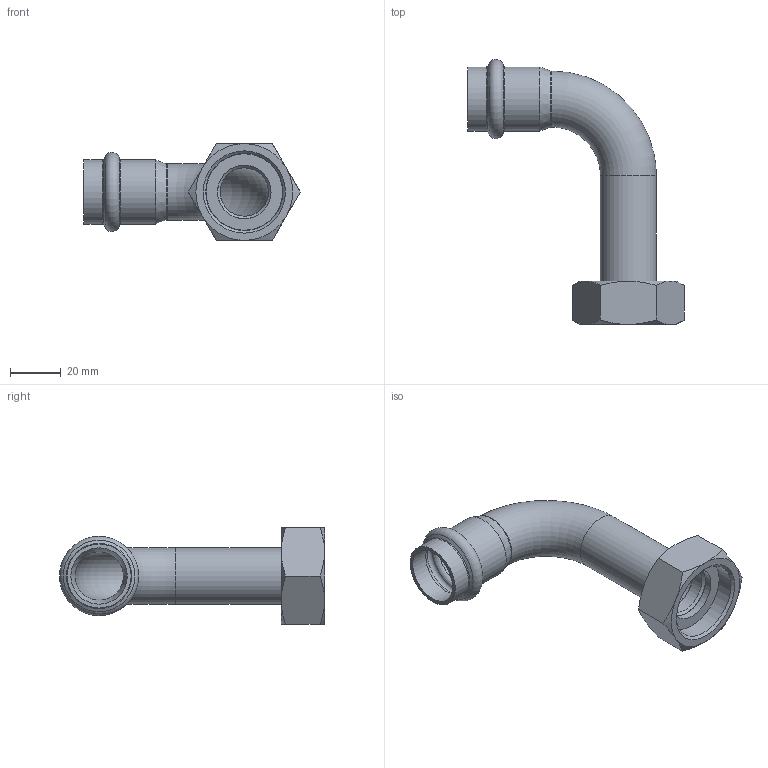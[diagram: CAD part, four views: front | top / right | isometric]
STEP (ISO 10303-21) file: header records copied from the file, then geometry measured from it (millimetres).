
FILE_DESCRIPTION((''),'2;1');
FILE_NAME('G:\Nirosan-Schmiedefeld\Technics\CAD\Bauteile VA\022\69002m221(3).stp','2011-06-29T08:16:59',('herberg'),(''),'Autodesk Inventor 2009','Autodesk Inventor 2009','');
FILE_SCHEMA(('AUTOMOTIVE_DESIGN { 1 0 10303 214 1 1 1 1 }'));
Length unit declared in the file: millimetre
Products named in the file (5): 69002m221(3); 69001A22(2); R221(0); SM221(4); FD_3021_EPDM(0)
Assembly tree (4 placements, depth 2):
  69002m221(3)
    69001A22(2)
    R221(0)
    SM221(4)
    FD_3021_EPDM(0)
Bounding box: 84.94 x 104.05 x 38 mm (x, y, z)
Volume: 24727.8 mm3; surface area: 25024.3 mm2
Topology: 4 solids, 4 shells, 58 faces, 117 edges, 69 vertices
Faces by surface type: cone 18, plane 15, cylinder 13, bspline 8, torus 4
Full cylindrical faces by diameter (mm): 19 x3, 21 x1, 22 x3, 22.15 x2, 25.15 x2, 29 x1, 30 x1
Entity records: 1666 total; most frequent: CARTESIAN_POINT 516, DIRECTION 226, ORIENTED_EDGE 162, AXIS2_PLACEMENT_3D 110, EDGE_LOOP 98, EDGE_CURVE 81, VERTEX_POINT 63, FACE_OUTER_BOUND 58
